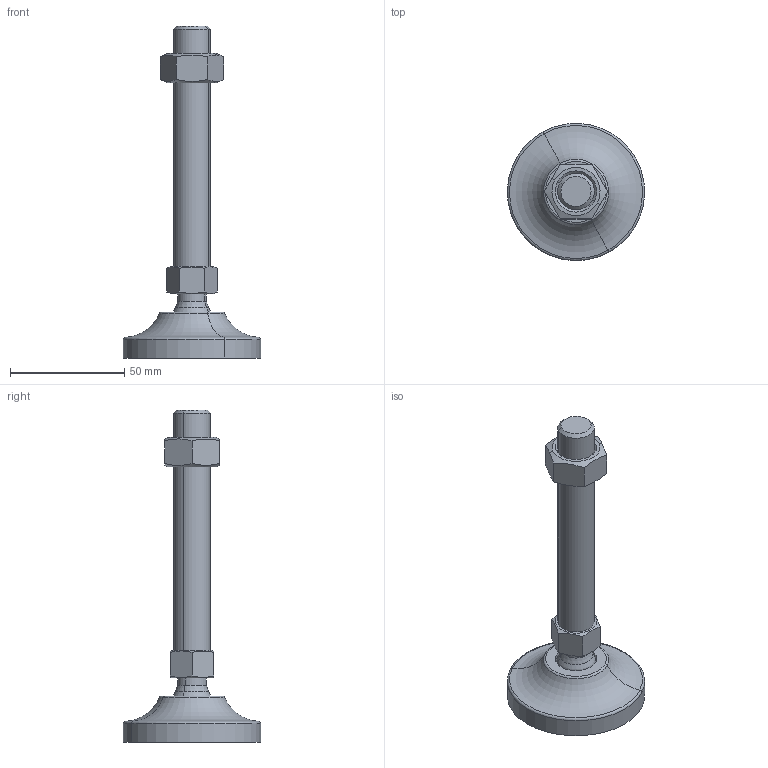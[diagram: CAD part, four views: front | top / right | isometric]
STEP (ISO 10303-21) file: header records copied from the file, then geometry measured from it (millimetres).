
FILE_DESCRIPTION(('CATIA V5 STEP Exchange'),'2;1');
FILE_NAME('C:\Users\ALI OZGUN\Desktop\alhan\saplama2\560601615.stp','2017-09-21T10:33:39+00:00',('none'),('none'),'CATIA Version 5 Release 21 GA (IN-10)','CATIA V5 STEP AP203','none');
FILE_SCHEMA(('CONFIG_CONTROL_DESIGN'));
Length unit declared in the file: millimetre
Products named in the file (1): 560601615
Bounding box: 59.98 x 59.98 x 145 mm (x, y, z)
Volume: 56731 mm3; surface area: 18545 mm2
Topology: 3 solids, 3 shells, 60 faces, 136 edges, 83 vertices
Faces by surface type: plane 20, cone 16, cylinder 14, torus 6, revolution 2, sphere 2
Entity records: 1852 total; most frequent: CARTESIAN_POINT 610, ORIENTED_EDGE 268, DIRECTION 186, EDGE_CURVE 134, AXIS2_PLACEMENT_3D 100, VERTEX_POINT 83, EDGE_LOOP 67, ADVANCED_FACE 60
